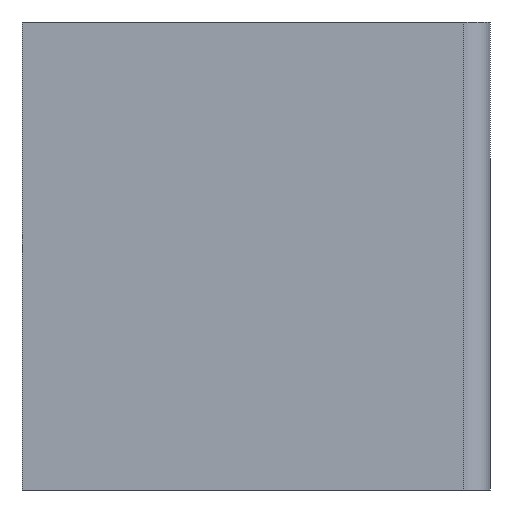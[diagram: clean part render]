
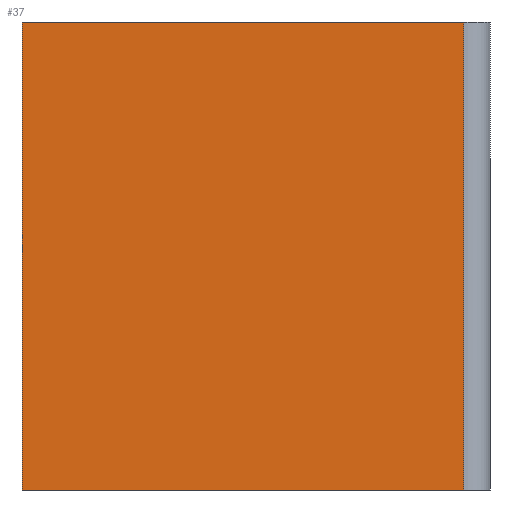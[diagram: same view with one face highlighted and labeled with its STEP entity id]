
A CAD part, left-side view. The second image highlights one B-rep face of the part: STEP entity #37.
In plain terms, the highlighted planar face has unit normal (-1, 0, 0).
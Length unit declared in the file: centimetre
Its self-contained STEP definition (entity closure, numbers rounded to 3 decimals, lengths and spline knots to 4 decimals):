
#18 = DIRECTION ( 'NONE',  ( 0., -1., 0. ) ) ;
#37 = ADVANCED_FACE ( 'NONE', ( #371 ), #782, .F. ) ;
#55 = ORIENTED_EDGE ( 'NONE', *, *, #421, .F. ) ;
#65 = DIRECTION ( 'NONE',  ( 0., -1., 0. ) ) ;
#87 = CARTESIAN_POINT ( 'NONE',  ( 0., 56.5785, 1000. ) ) ;
#94 = LINE ( 'NONE', #396, #100 ) ;
#100 = VECTOR ( 'NONE', #701, 100. ) ;
#118 = CARTESIAN_POINT ( 'NONE',  ( 0., 56.5785, 0. ) ) ;
#134 = ORIENTED_EDGE ( 'NONE', *, *, #774, .T. ) ;
#145 = ORIENTED_EDGE ( 'NONE', *, *, #559, .T. ) ;
#267 = CARTESIAN_POINT ( 'NONE',  ( 0., 56.5785, 1000. ) ) ;
#268 = AXIS2_PLACEMENT_3D ( 'NONE', #429, #605, #729 ) ;
#307 = VERTEX_POINT ( 'NONE', #118 ) ;
#341 = CARTESIAN_POINT ( 'NONE',  ( 0., 1000., 1000. ) ) ;
#347 = VECTOR ( 'NONE', #637, 100. ) ;
#369 = CARTESIAN_POINT ( 'NONE',  ( 0., 1000., 1000. ) ) ;
#371 = FACE_OUTER_BOUND ( 'NONE', #725, .T. ) ;
#396 = CARTESIAN_POINT ( 'NONE',  ( 0., 1000., 1000. ) ) ;
#421 = EDGE_CURVE ( 'NONE', #752, #594, #611, .T. ) ;
#429 = CARTESIAN_POINT ( 'NONE',  ( 0., 1000., 1000. ) ) ;
#431 = ORIENTED_EDGE ( 'NONE', *, *, #586, .T. ) ;
#453 = CARTESIAN_POINT ( 'NONE',  ( 0., 1000., 0. ) ) ;
#519 = CARTESIAN_POINT ( 'NONE',  ( 0., 1000., 0. ) ) ;
#525 = VECTOR ( 'NONE', #18, 100. ) ;
#559 = EDGE_CURVE ( 'NONE', #752, #756, #94, .T. ) ;
#572 = LINE ( 'NONE', #87, #347 ) ;
#575 = LINE ( 'NONE', #519, #525 ) ;
#586 = EDGE_CURVE ( 'NONE', #307, #594, #572, .T. ) ;
#588 = VECTOR ( 'NONE', #65, 100. ) ;
#594 = VERTEX_POINT ( 'NONE', #267 ) ;
#605 = DIRECTION ( 'NONE',  ( 1., 0., 0. ) ) ;
#611 = LINE ( 'NONE', #369, #588 ) ;
#637 = DIRECTION ( 'NONE',  ( 0., 0., 1. ) ) ;
#701 = DIRECTION ( 'NONE',  ( 0., 0., -1. ) ) ;
#725 = EDGE_LOOP ( 'NONE', ( #134, #431, #55, #145 ) ) ;
#729 = DIRECTION ( 'NONE',  ( 0., 0., -1. ) ) ;
#752 = VERTEX_POINT ( 'NONE', #341 ) ;
#756 = VERTEX_POINT ( 'NONE', #453 ) ;
#774 = EDGE_CURVE ( 'NONE', #756, #307, #575, .T. ) ;
#782 = PLANE ( 'NONE',  #268 ) ;
